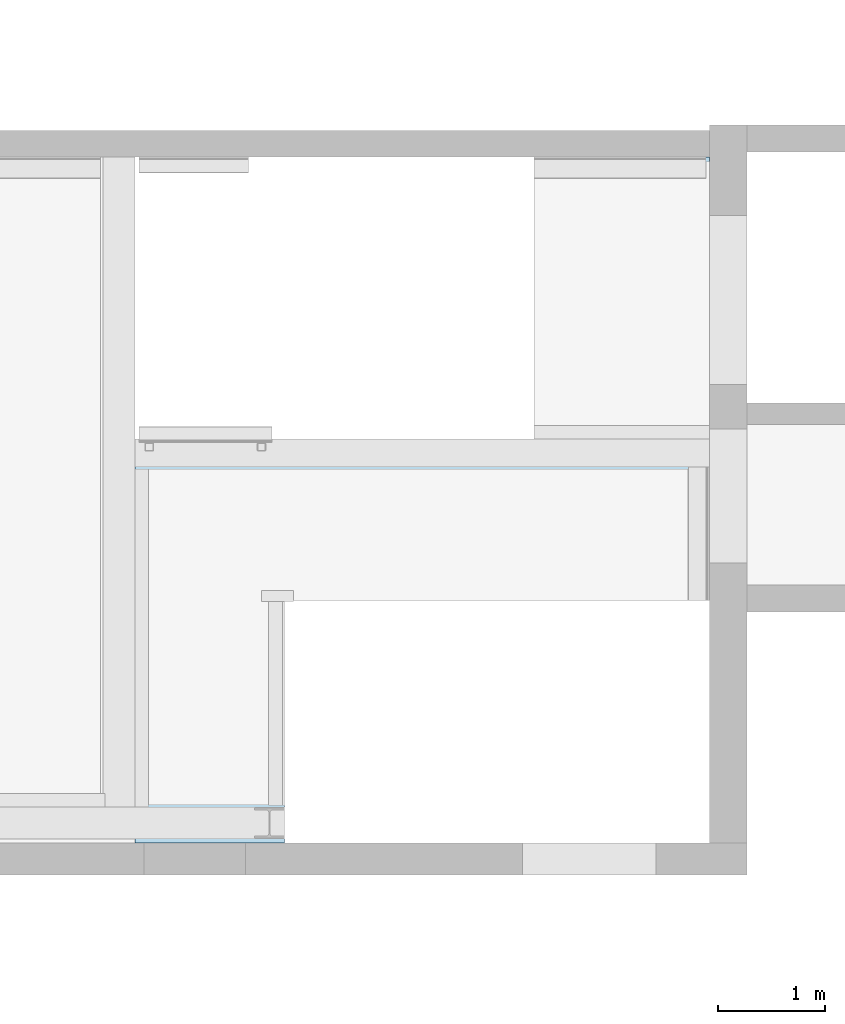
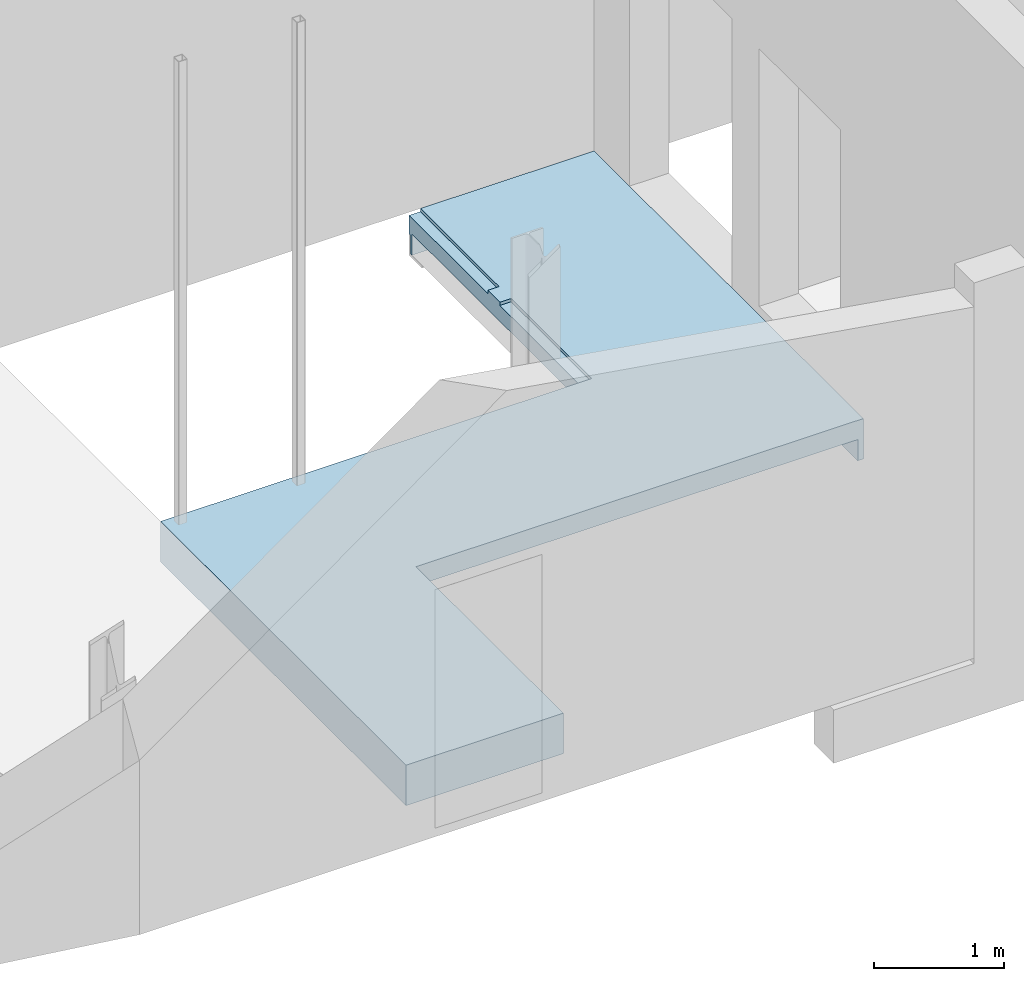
# One storey, part 36 of 38: 1 slab.
"""IFC2X3 building model written with IfcOpenShell, lengths in millimetres."""

from ifc_helpers import new_model, entity, si_unit, converted_unit, derived_unit, direction, frame, origin, place, context, subcontext, project, spatial, faceted_brep, material, type_object, element, save


model = new_model("IFC2X3")

# Units and contexts
model_context = context("Model", 3, precision=0.01, world=origin(), true_north=direction((6.12303176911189e-17, 1.0)))
body_context = subcontext(model_context, "Body", "Model", "MODEL_VIEW")
ifc_project = project(units=[si_unit("LENGTHUNIT", "METRE", prefix="MILLI"), si_unit("AREAUNIT", "SQUARE_METRE", prefix="MILLI"), si_unit("VOLUMEUNIT", "CUBIC_METRE"), converted_unit("PLANEANGLEUNIT", "DEGREE", entity("IfcRatioMeasure", 0.0174532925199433), si_unit("PLANEANGLEUNIT", "RADIAN"), dimensions=[0, 0, 0, 0, 0, 0, 0]), si_unit("MASSUNIT", "GRAM", prefix="KILO"), derived_unit("MASSDENSITYUNIT", [(si_unit("MASSUNIT", "GRAM", prefix="KILO"), 1), (si_unit("LENGTHUNIT", "METRE"), -3)]), derived_unit("MOMENTOFINERTIAUNIT", [(si_unit("LENGTHUNIT", "METRE"), 4)]), si_unit("TIMEUNIT", "SECOND"), si_unit("FREQUENCYUNIT", "HERTZ"), si_unit("THERMODYNAMICTEMPERATUREUNIT", "DEGREE_CELSIUS"), derived_unit("THERMALTRANSMITTANCEUNIT", [(si_unit("MASSUNIT", "GRAM", prefix="KILO"), 1), (si_unit("THERMODYNAMICTEMPERATUREUNIT", "KELVIN"), -1), (si_unit("TIMEUNIT", "SECOND"), -3)]), derived_unit("VOLUMETRICFLOWRATEUNIT", [(si_unit("LENGTHUNIT", "METRE"), 3), (si_unit("TIMEUNIT", "SECOND"), -1)]), si_unit("ELECTRICCURRENTUNIT", "AMPERE"), si_unit("ELECTRICVOLTAGEUNIT", "VOLT"), si_unit("POWERUNIT", "WATT"), si_unit("FORCEUNIT", "NEWTON", prefix="KILO"), si_unit("ILLUMINANCEUNIT", "LUX"), si_unit("LUMINOUSFLUXUNIT", "LUMEN"), si_unit("LUMINOUSINTENSITYUNIT", "CANDELA"), derived_unit("USERDEFINED", [(si_unit("MASSUNIT", "GRAM", prefix="KILO"), -1), (si_unit("LENGTHUNIT", "METRE"), -2), (si_unit("TIMEUNIT", "SECOND"), 3), (si_unit("LUMINOUSFLUXUNIT", "LUMEN"), 1)]), derived_unit("LINEARVELOCITYUNIT", [(si_unit("LENGTHUNIT", "METRE"), 1), (si_unit("TIMEUNIT", "SECOND"), -1)]), si_unit("PRESSUREUNIT", "PASCAL"), derived_unit("USERDEFINED", [(si_unit("LENGTHUNIT", "METRE"), -2), (si_unit("MASSUNIT", "GRAM", prefix="KILO"), 1), (si_unit("TIMEUNIT", "SECOND"), -2)]), derived_unit("LINEARFORCEUNIT", [(si_unit("MASSUNIT", "GRAM", prefix="KILO"), 1), (si_unit("LENGTHUNIT", "METRE"), 1), (si_unit("TIMEUNIT", "SECOND"), -2), (si_unit("LENGTHUNIT", "METRE"), -1)]), derived_unit("PLANARFORCEUNIT", [(si_unit("MASSUNIT", "GRAM", prefix="KILO"), 1), (si_unit("LENGTHUNIT", "METRE"), 1), (si_unit("TIMEUNIT", "SECOND"), -2), (si_unit("LENGTHUNIT", "METRE"), -2)])], contexts=[model_context])

# Site, building, storey
site_placement = place(None, origin())
site = spatial("IfcSite", under=ifc_project, at=site_placement, Name="Theater aan de Parade", CompositionType="ELEMENT")
building_placement = place(site_placement, origin())
building = spatial("IfcBuilding", under=site, at=building_placement, Name="Theater aan de Parade", CompositionType="ELEMENT")
storey_placement = place(building_placement, frame((0.0, 0.0, 12480.0)))
storey = spatial("IfcBuildingStorey", under=building, at=storey_placement, Name="03 derde verdieping", CompositionType="ELEMENT", Elevation=12480.0)

# Slab
ifc_material = material(Name="00_PBT_MAT_beton t.p.g._C30/37")
slab_type = type_object("IfcSlabType", Name="Floor:28_PBT_FL_druklaag_d=180 (=380)_C30/37", PredefinedType="FLOOR")
slab_placement = place(storey_placement, origin())
element("IfcSlab", 1, at=slab_placement, inside=storey, type_object=slab_type, material=ifc_material, Name="Floor:28_PBT_FL_druklaag_d=180 (=380)_C30/37", ObjectType="Floor:28_PBT_FL_druklaag_d=180 (=380)_C30/37", PredefinedType="FLOOR", context=body_context, shape_type="Brep", body=[
    faceted_brep([(63366.2592599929, 43197.5638256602, -260.0), (63381.2592599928, 43197.5638256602, -260.0), (63381.2592599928, 42850.0, -260.0), (61983.8822563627, 42850.0, -260.0), (61983.8822563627, 42885.0, -260.0), (61983.8822563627, 46626.8631171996, -260.0), (65713.8822564, 46626.8631171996, -260.0), (65713.8822564, 46646.8631171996, -260.0), (67356.2561009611, 46646.8631171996, -260.0), (67356.2561009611, 45117.5638256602, -260.0), (67306.256100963, 45117.5638256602, -260.0), (67306.256100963, 46346.8631171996, -260.0), (62003.8822563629, 46346.8631171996, -260.0), (62003.8822563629, 43205.0, -260.0), (63231.2592599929, 43205.0, -260.0), (63341.2592599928, 43205.0, -260.0), (63341.2592599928, 45107.5638256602, -260.0), (63366.2592599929, 45107.5638256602, -260.0), (67323.8822563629, 49261.997990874, -260.0), (67356.2561009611, 49261.997990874, -260.0), (67356.2561009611, 49221.5644848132, -260.0), (65713.8822564, 49221.5644848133, -260.0), (65713.8822564, 49236.4478904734, -260.0), (67323.8822563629, 49236.4478904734, -260.0), (67356.2561009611, 49221.5644848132, -60.0), (67356.2561009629, 46646.8631171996, -60.0), (65713.8822564, 46646.8631171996, -60.0), (65713.8822564, 49221.5644848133, -60.0), (62003.8822563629, 46346.8631171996, -60.0), (67306.256100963, 46346.8631171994, -60.0), (67306.256100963, 45117.5638256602, -60.0), (63466.2591599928, 45117.5638256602, -60.0), (63466.2591599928, 45207.5638256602, -60.0), (63166.2591599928, 45207.5638256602, -60.0), (63166.2591599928, 45117.5638256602, -60.0), (63166.2591599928, 45107.5638256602, -60.0), (63341.2592599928, 45107.5638256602, -60.0), (63341.2592599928, 43205.0, -60.0), (62003.8822563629, 43205.0, -60.0), (61983.8822563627, 42850.0, 120.0), (63381.2592599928, 42850.0, 120.0), (63381.2592599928, 45117.5638256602, 120.0), (67356.2561009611, 45117.5638256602, 120.0), (67356.2561009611, 47136.8723406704, 120.0), (67356.2561009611, 48716.8723406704, 120.0), (67356.2561009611, 49261.997990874, 120.0), (65813.8822564, 49261.997990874, 120.0), (65813.8822564, 48051.9979908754, 120.0), (65713.8822564, 48051.9979908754, 120.0), (65713.8822564, 47866.8631171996, 120.0), (65813.8822564, 47866.8631171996, 120.0), (65813.8822564, 46626.8631171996, 120.0), (61983.8822563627, 46626.8631171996, 120.0), (65813.8822564, 46626.8631171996, 90.0), (65713.8822564, 46626.8631171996, 90.0), (65713.8822564, 47866.8631171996, 90.0), (65713.8822564, 48051.9979908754, 90.0), (65713.8822564, 49261.997990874, 90.0), (65713.8822564, 49261.997990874, -85.0), (65713.8822564, 49250.9979908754, -85.0), (65713.8822564, 49244.6340298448, -87.6360389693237), (65713.8822564, 49241.9979908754, -94.0), (65713.8822564, 49241.9979908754, -247.0), (65713.8822564, 49241.2752050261, -250.533797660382), (65713.8822564, 49240.5524191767, -254.067595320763), (65713.8822564, 49238.5001548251, -257.033797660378), (67323.8822563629, 49261.997990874, -85.0), (65813.8822564, 49261.997990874, 90.0), (63381.2592599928, 45117.5638256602, -50.0), (63466.2591599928, 45117.5638256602, -50.0), (63381.2592599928, 45107.5638256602, -50.0), (63381.2592599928, 43197.5638256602, -25.0), (63381.2592599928, 45107.5638256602, -25.0), (63466.2591599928, 45207.5638256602, -50.0), (63166.2591599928, 45207.5638256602, -50.0), (63166.2591599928, 45107.5638256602, -50.0), (63366.2592599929, 45107.5638256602, -50.0), (63366.2592599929, 45107.5638256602, -25.0), (63366.2592599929, 43197.5638256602, -25.0), (67323.8822563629, 49239.0617688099, -256.222395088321), (67323.8822563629, 49240.5518662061, -254.068890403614), (67323.8822563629, 49241.2749285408, -250.534445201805), (67323.8822563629, 49241.9979908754, -247.0), (67323.8822563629, 49241.9979908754, -94.0), (67323.8822563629, 49244.6340298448, -87.6360389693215), (67323.8822563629, 49250.9979908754, -85.0), (65813.8822564, 48051.9979908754, 90.0), (65813.8822564, 47866.8631171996, 90.0)], [[[0, 1, 2, 3, 4, 5, 6, 7, 8, 9, 10, 11, 12, 13, 14, 15, 16, 17]], [[18, 19, 20, 21, 22, 23]], [[24, 25, 26, 27]], [[28, 29, 30, 31, 32, 33, 34, 35, 36, 37, 38]], [[39, 40, 41, 42, 43, 44, 45, 46, 47, 48, 49, 50, 51, 52]], [[4, 3, 39, 52, 5]], [[5, 52, 51, 53, 54, 6]], [[21, 27, 26, 7, 6, 54, 55, 49, 48, 56, 57, 58, 59, 60, 61, 62, 63, 64, 65, 22]], [[66, 58, 57, 67, 46, 45, 19, 18]], [[9, 8, 25, 24, 20, 19, 45, 44, 43, 42]], [[10, 9, 42, 41, 68, 69, 31, 30]], [[70, 68, 41, 40, 2, 1, 71, 72]], [[3, 2, 40, 39]], [[38, 13, 12, 28]], [[28, 12, 11, 29]], [[27, 21, 20, 24]], [[37, 36, 16, 15]], [[38, 37, 15, 14, 13]], [[29, 11, 10, 30]], [[69, 73, 32, 31]], [[34, 33, 74, 75, 35]], [[36, 35, 75, 76, 17, 16]], [[70, 72, 77, 76]], [[0, 78, 71, 1]], [[76, 77, 78, 0, 17]], [[7, 26, 25, 8]], [[32, 73, 74, 33]], [[68, 70, 76, 75, 74, 73, 69]], [[77, 72, 71, 78]], [[18, 23, 79, 80, 81, 82, 83, 84, 85, 66]], [[83, 82, 62, 61]], [[80, 79, 64]], [[65, 23, 22]], [[65, 79, 23]], [[81, 64, 63]], [[63, 62, 82]], [[81, 63, 82]], [[81, 80, 64]], [[65, 64, 79]], [[66, 85, 59, 58]], [[83, 61, 60, 84]], [[60, 59, 85, 84]], [[67, 57, 56, 86]], [[87, 55, 54, 53]], [[56, 48, 47, 86]], [[86, 47, 46, 67]], [[87, 53, 51, 50]], [[55, 87, 50, 49]]]),
])

save(model, "model.ifc")
